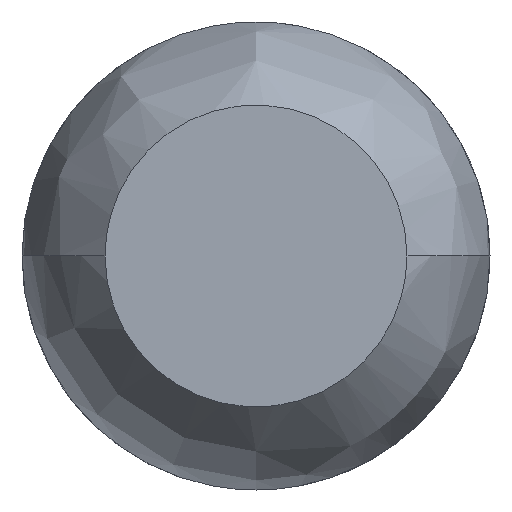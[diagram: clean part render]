
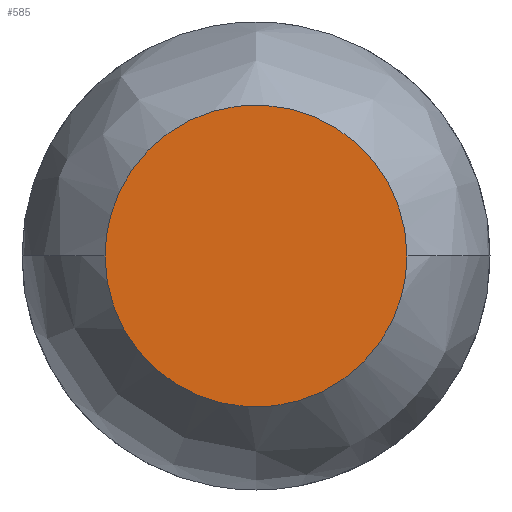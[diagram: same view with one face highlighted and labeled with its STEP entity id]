
A CAD part, left-side view. The second image highlights one B-rep face of the part: STEP entity #585.
In plain terms, the highlighted free-form (B-spline) face has degree [1, 1] with [2, 2] control points.
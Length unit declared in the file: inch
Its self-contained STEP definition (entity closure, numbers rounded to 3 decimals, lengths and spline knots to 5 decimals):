
#2 = VERTEX_POINT ( 'NONE', #230 ) ;
#4 = CARTESIAN_POINT ( 'NONE',  ( 0., -0.02684, 0.01559 ) ) ;
#5 = ORIENTED_EDGE ( 'NONE', *, *, #159, .T. ) ;
#37 = CARTESIAN_POINT ( 'NONE',  ( 0., 0.03, -0.00796 ) ) ;
#51 = CARTESIAN_POINT ( 'NONE',  ( 0., -0.03, -0.00796 ) ) ;
#80 = CARTESIAN_POINT ( 'NONE',  ( 0., 0.03, 0. ) ) ;
#85 = CARTESIAN_POINT ( 'NONE',  ( 0., 0.00796, -0.03 ) ) ;
#104 = CARTESIAN_POINT ( 'NONE',  ( 0., 0.01559, 0.02684 ) ) ;
#159 = EDGE_CURVE ( 'NONE', #2, #539, #353, .T. ) ;
#175 = EDGE_CURVE ( 'NONE', #539, #2, #197, .T. ) ;
#197 = B_SPLINE_CURVE_WITH_KNOTS ( 'NONE', 3,
 ( #318, #497, #4, #325, #553, #444, #104, #538, #439, #548 ),
 .UNSPECIFIED., .F., .F.,
 ( 4, 2, 2, 2, 4 ),
 ( 0., 0.7854, 1.5708, 2.35619, 3.14159 ),
 .UNSPECIFIED. ) ;
#217 = CARTESIAN_POINT ( 'NONE',  ( 0., 0.02684, -0.01559 ) ) ;
#222 = CARTESIAN_POINT ( 'NONE',  ( 0., -0.00796, -0.03 ) ) ;
#230 = CARTESIAN_POINT ( 'NONE',  ( 0., 0.03, 0. ) ) ;
#271 = CARTESIAN_POINT ( 'NONE',  ( 0., -0.03036, -0.03036 ) ) ;
#302 = CARTESIAN_POINT ( 'NONE',  ( 0., -0.03036, 0.03036 ) ) ;
#309 = CARTESIAN_POINT ( 'NONE',  ( 0., 0.03036, 0.03036 ) ) ;
#314 = EDGE_LOOP ( 'NONE', ( #365, #5 ) ) ;
#318 = CARTESIAN_POINT ( 'NONE',  ( 0., -0.03, 0. ) ) ;
#325 = CARTESIAN_POINT ( 'NONE',  ( 0., -0.01559, 0.02684 ) ) ;
#353 = B_SPLINE_CURVE_WITH_KNOTS ( 'NONE', 3,
 ( #80, #37, #217, #576, #85, #222, #394, #449, #51, #358 ),
 .UNSPECIFIED., .F., .F.,
 ( 4, 2, 2, 2, 4 ),
 ( 0., 0.7854, 1.5708, 2.35619, 3.14159 ),
 .UNSPECIFIED. ) ;
#358 = CARTESIAN_POINT ( 'NONE',  ( 0., -0.03, 0. ) ) ;
#365 = ORIENTED_EDGE ( 'NONE', *, *, #175, .T. ) ;
#394 = CARTESIAN_POINT ( 'NONE',  ( 0., -0.01559, -0.02684 ) ) ;
#439 = CARTESIAN_POINT ( 'NONE',  ( 0., 0.03, 0.00796 ) ) ;
#444 = CARTESIAN_POINT ( 'NONE',  ( 0., 0.00796, 0.03 ) ) ;
#449 = CARTESIAN_POINT ( 'NONE',  ( 0., -0.02684, -0.01559 ) ) ;
#467 = B_SPLINE_SURFACE_WITH_KNOTS ( 'NONE', 1, 1, ( 
 ( #302, #309 ),
 ( #271, #506 ) ),
 .UNSPECIFIED., .F., .F., .F.,
 ( 2, 2 ),
 ( 2, 2 ),
 ( 0., 1. ),
 ( 0., 1. ),
 .UNSPECIFIED. ) ;
#474 = CARTESIAN_POINT ( 'NONE',  ( 0., -0.03, 0. ) ) ;
#497 = CARTESIAN_POINT ( 'NONE',  ( 0., -0.03, 0.00796 ) ) ;
#506 = CARTESIAN_POINT ( 'NONE',  ( 0., 0.03036, -0.03036 ) ) ;
#533 = FACE_OUTER_BOUND ( 'NONE', #314, .T. ) ;
#538 = CARTESIAN_POINT ( 'NONE',  ( 0., 0.02684, 0.01559 ) ) ;
#539 = VERTEX_POINT ( 'NONE', #474 ) ;
#548 = CARTESIAN_POINT ( 'NONE',  ( 0., 0.03, 0. ) ) ;
#553 = CARTESIAN_POINT ( 'NONE',  ( 0., -0.00796, 0.03 ) ) ;
#576 = CARTESIAN_POINT ( 'NONE',  ( 0., 0.01559, -0.02684 ) ) ;
#585 = ADVANCED_FACE ( 'NONE', ( #533 ), #467, .F. ) ;
